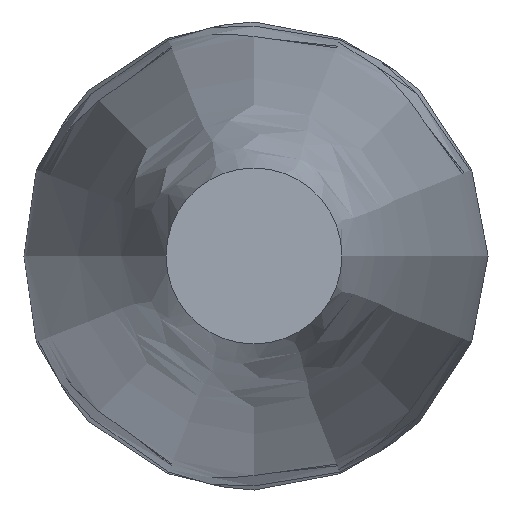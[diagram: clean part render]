
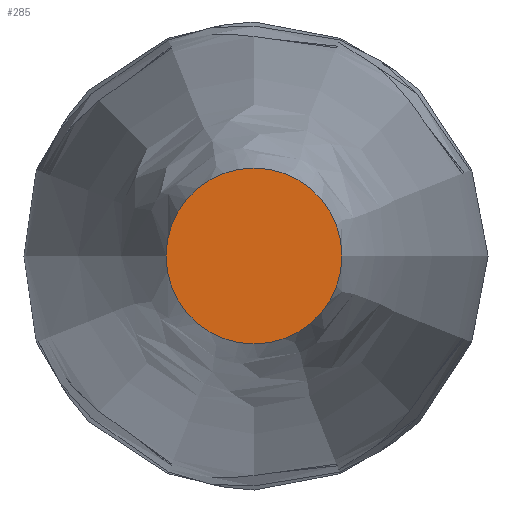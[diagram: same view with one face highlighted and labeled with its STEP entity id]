
A CAD part, left-side view. The second image highlights one B-rep face of the part: STEP entity #285.
In plain terms, the highlighted planar face has unit normal (-1, 0, 0).
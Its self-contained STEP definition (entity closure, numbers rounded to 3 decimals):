
#234=CARTESIAN_POINT('',(200.0,48.,0.0));
#235=VERTEX_POINT('',#234);
#259=CARTESIAN_POINT('',(200.0,0.0,0.0));
#260=DIRECTION('',(-1.0,0.0,0.0));
#261=DIRECTION('',(0.0,1.0,0.0));
#262=AXIS2_PLACEMENT_3D('',#259,#260,#261);
#263=CIRCLE('',#262,48.);
#264=EDGE_CURVE('',#235,#235,#263,.T.);
#277=CARTESIAN_POINT('',(200.0,24.,0.0));
#278=DIRECTION('',(-1.0,0.0,0.0));
#279=DIRECTION('',(0.0,0.0,1.0));
#280=AXIS2_PLACEMENT_3D('',#277,#278,#279);
#281=PLANE('',#280);
#282=ORIENTED_EDGE('',*,*,#264,.T.);
#283=EDGE_LOOP('',(#282));
#284=FACE_OUTER_BOUND('',#283,.T.);
#285=ADVANCED_FACE('',(#284),#281,.T.);
